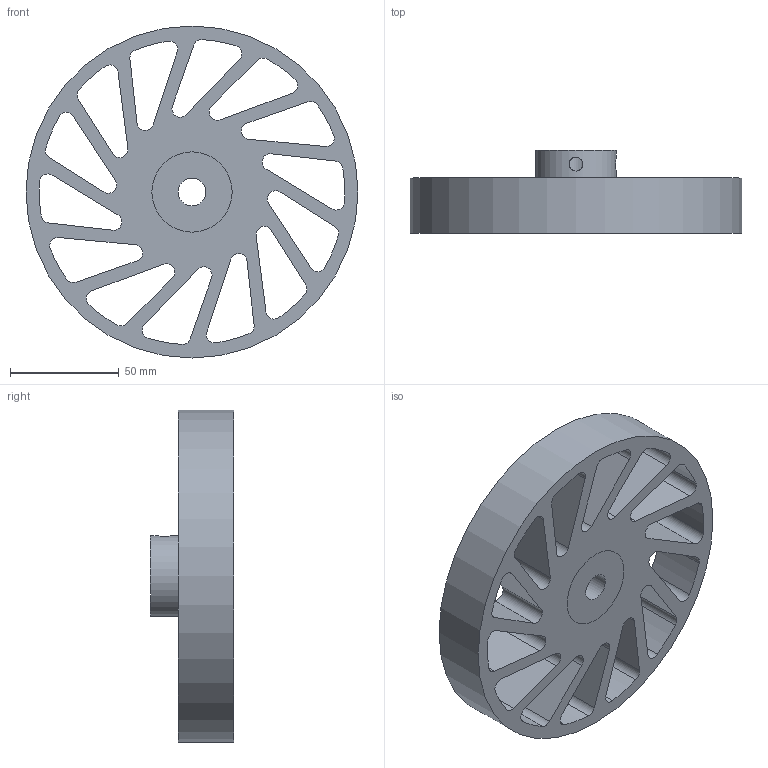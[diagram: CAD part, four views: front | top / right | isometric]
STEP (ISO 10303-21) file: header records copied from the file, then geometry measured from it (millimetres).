
FILE_DESCRIPTION(/* description */ (''),/* implementation_level */ '2;1');
FILE_NAME(/* name */ 'NCW-550-XXX-YYY.stp',/* time_stamp */ '2023-02-02T15:34:09-06:00',/* author */ ('AG'),/* organization */ ('Meridian Laboratory'),/* preprocessor_version */ 'ST-DEVELOPER v18.1',/* originating_system */ 'Autodesk Inventor 2022',/* authorisation */ '');
FILE_SCHEMA (('AUTOMOTIVE_DESIGN { 1 0 10303 214 3 1 1 }'));
Length unit declared in the file: inch
Products named in the file (1): NCW-540
Bounding box: 152.4 x 38.1 x 152.4 mm (x, y, z)
Volume: 267713 mm3; surface area: 78498.2 mm2
Topology: 2 solids, 2 shells, 94 faces, 276 edges, 186 vertices
Faces by surface type: cylinder 62, plane 32
Full cylindrical faces by diameter (mm): 6.35 x2, 12.725 x1, 36.83 x2, 152.4 x1
Entity records: 3518 total; most frequent: CARTESIAN_POINT 697, DIRECTION 576, ORIENTED_EDGE 552, EDGE_CURVE 276, AXIS2_PLACEMENT_3D 215, VERTEX_POINT 186, LINE 146, VECTOR 146
